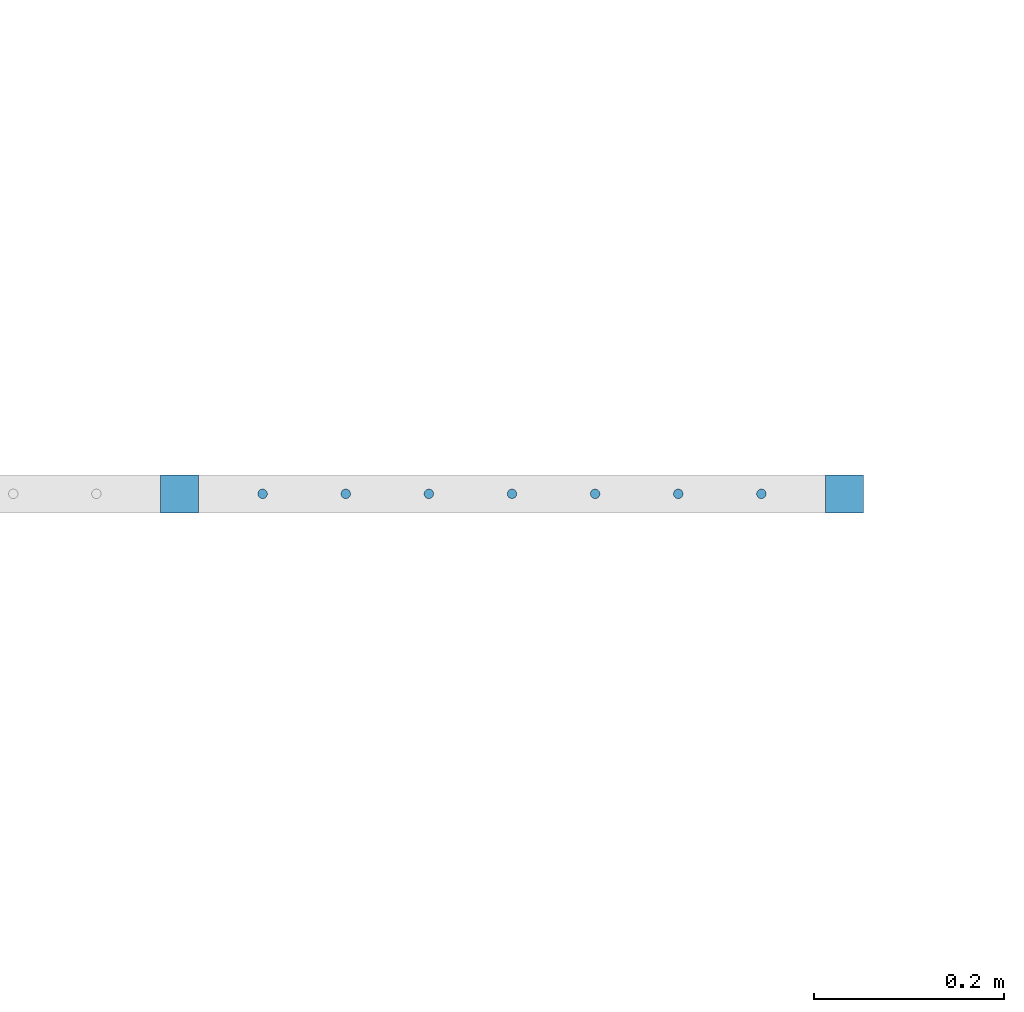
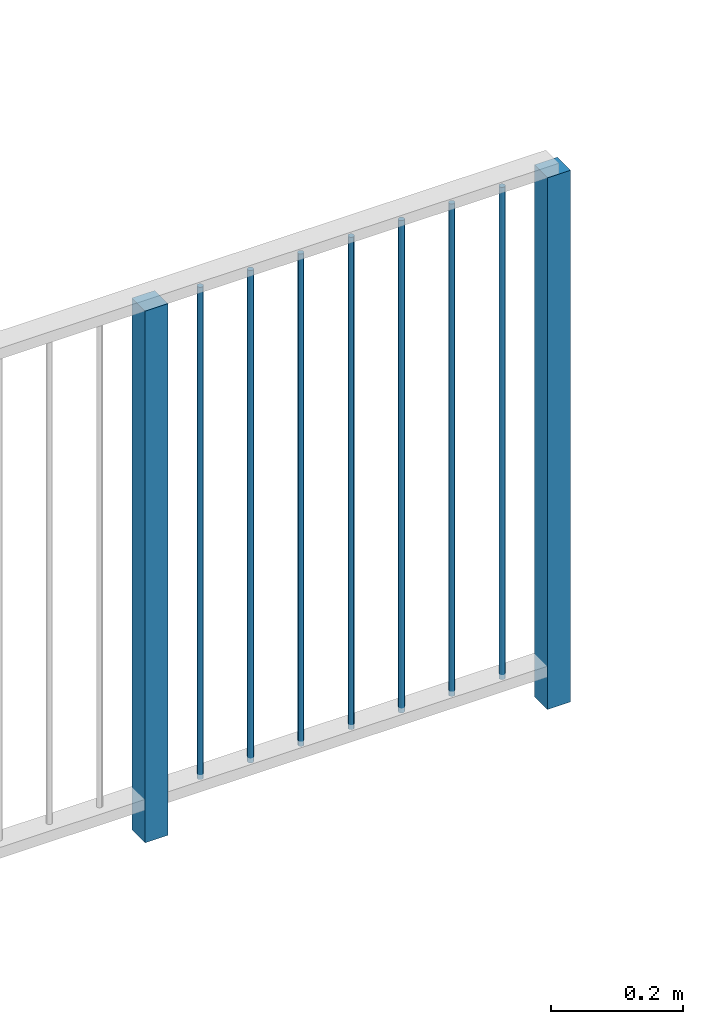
# One storey, part 11 of 135: 9 members, 1 element without a shape of its own.
"""IFC2X3 building model written with IfcOpenShell, lengths in millimetres."""

import ifcopenshell
import ifcopenshell.guid

model = None  # the IFC model being written
_history = None  # IfcOwnerHistory: only IFC2X3 demands one
_inside = {}  # id of a spatial element -> (the spatial element, [elements in it])
_under = {}  # id of a project, library or spatial element -> (it, [spatial elements below it])
_declared = {}  # id of a project -> (the project, [libraries it declares])
_typed = {}  # id of a type object -> (the type object, [elements of that type])
_made_of = {}  # id of a material, layer set ... -> (it, [elements and type objects made of it])


def new_model(schema):
    """Start an empty IFC model of exactly this schema.

    Asked for "IFC4X3", IfcOpenShell would pick the latest addendum, in which some entities
    have other attributes; the version numbers below select the first issue.
    IFC2X3 requires an IfcOwnerHistory on every rooted entity: one is made here for all.
    """
    global model, _history
    if schema == "IFC4X3":
        model = ifcopenshell.file(schema_version=(4, 3, 0, 0))
    else:
        model = ifcopenshell.file(schema=schema)
    _inside.clear()
    _under.clear()
    _declared.clear()
    _typed.clear()
    _made_of.clear()
    _history = None
    if model.schema == "IFC2X3":
        org = make("IfcOrganization", Name="unknown")
        user = make(
            "IfcPersonAndOrganization",
            ThePerson=make("IfcPerson", FamilyName="unknown"),
            TheOrganization=org,
        )
        app = make(
            "IfcApplication",
            ApplicationDeveloper=org,
            Version="unknown",
            ApplicationFullName="unknown",
            ApplicationIdentifier="unknown",
        )
        _history = make(
            "IfcOwnerHistory",
            OwningUser=user,
            OwningApplication=app,
            ChangeAction="ADDED",
            CreationDate=0,
        )
    return model


def make(cls, **values):
    """One entity of the class cls with the attributes given. An attribute that is None is left unset."""
    return model.create_entity(
        cls, **{name: value for name, value in values.items() if value is not None}
    )


def entity(cls, *values):
    """Any entity or typed value of the class cls, its attributes in the order of the schema. None: left unset."""
    e = model.create_entity(cls)
    for i, value in enumerate(values):
        if value is not None:
            e[i] = value
    return e


def rooted(cls, **values):
    """An entity with a GlobalId (a new one), such as an element, a storey or a relation."""
    return make(cls, GlobalId=ifcopenshell.guid.new(), OwnerHistory=_history, **values)


def si_unit(unit_type, name, prefix=None):
    """IfcSIUnit, for example si_unit("LENGTHUNIT", "METRE", prefix="MILLI")."""
    return make("IfcSIUnit", UnitType=unit_type, Prefix=prefix, Name=name)


def converted_unit(unit_type, name, factor, base, dimensions=None, offset=None):
    """IfcConversionBasedUnit, such as the inch: factor (a typed value) times the base unit."""
    return make(
        "IfcConversionBasedUnit"
        if offset is None
        else "IfcConversionBasedUnitWithOffset",
        ConversionOffset=offset,
        Dimensions=None
        if dimensions is None
        else entity("IfcDimensionalExponents", *dimensions),
        UnitType=unit_type,
        Name=name,
        ConversionFactor=make(
            "IfcMeasureWithUnit", ValueComponent=factor, UnitComponent=base
        ),
    )


def derived_unit(unit_type, elements):
    """IfcDerivedUnit: a product of units, each with its exponent."""
    return make(
        "IfcDerivedUnit",
        Elements=[
            make("IfcDerivedUnitElement", Unit=unit, Exponent=power)
            for unit, power in elements
        ],
        UnitType=unit_type,
    )


def money_unit(currency):
    """IfcMonetaryUnit."""
    return make("IfcMonetaryUnit", Currency=currency)


def assignment(units):
    """IfcUnitAssignment: the units of a project."""
    return None if units is None else make("IfcUnitAssignment", Units=units)


def point(xyz):
    """IfcCartesianPoint."""
    return None if xyz is None else make("IfcCartesianPoint", Coordinates=xyz)


def direction(xyz):
    """IfcDirection."""
    return None if xyz is None else make("IfcDirection", DirectionRatios=xyz)


def frame(location, z_axis=None, x_axis=None):
    """IfcAxis2Placement3D, a coordinate frame: its origin and axes. An axis left out is left unset."""
    return make(
        "IfcAxis2Placement3D",
        Location=point(location),
        Axis=direction(z_axis),
        RefDirection=direction(x_axis),
    )


def origin_with_axes():
    """The frame at (0, 0, 0) with the z axis (0, 0, 1) and the x axis (1, 0, 0) written out."""
    return frame((0.0, 0.0, 0.0), z_axis=(0.0, 0.0, 1.0), x_axis=(1.0, 0.0, 0.0))


def place(relative_to, where):
    """IfcLocalPlacement: puts the frame where relative to a parent placement (None: the world)."""
    return make(
        "IfcLocalPlacement", PlacementRelTo=relative_to, RelativePlacement=where
    )


def context(
    kind, dimensions, precision=None, world=None, true_north=None, identifier=None
):
    """IfcGeometricRepresentationContext, for example the 3D "Model" context."""
    return make(
        "IfcGeometricRepresentationContext",
        ContextIdentifier=identifier,
        ContextType=kind,
        CoordinateSpaceDimension=dimensions,
        Precision=precision,
        WorldCoordinateSystem=world,
        TrueNorth=true_north,
    )


def subcontext(parent, identifier, kind, view, scale=None):
    """IfcGeometricRepresentationSubContext, for example "Body" below "Model"."""
    return make(
        "IfcGeometricRepresentationSubContext",
        ContextIdentifier=identifier,
        ContextType=kind,
        ParentContext=parent,
        TargetScale=scale,
        TargetView=view,
    )


def project(units=None, contexts=None):
    """IfcProject with its units and contexts."""
    return rooted(
        "IfcProject",
        Name="project",
        RepresentationContexts=contexts,
        UnitsInContext=assignment(units),
    )


def spatial(cls, under=None, at=None, **own):
    """A site, building, storey or space (cls), placed at a placement, below another one or the project."""
    s = rooted(cls, ObjectPlacement=at, **own)
    if under is not None:
        _under.setdefault(under.id(), (under, []))[1].append(s)
    return s


def faces_of(points, faces, orient=None, outer=None):
    """IfcFace entities. A face is a list of loops; a loop is a list of indices into points, from 0.

    orient and outer hold one flag for each loop. By default every Orientation is true, the
    first loop of a face is its IfcFaceOuterBound and the others are IfcFaceBound.
    """
    made = []
    for i, loops in enumerate(faces):
        bounds = []
        for j, loop in enumerate(loops):
            is_outer = j == 0 if outer is None else outer[i][j]
            bounds.append(
                make(
                    "IfcFaceOuterBound" if is_outer else "IfcFaceBound",
                    Bound=make("IfcPolyLoop", Polygon=[points[k] for k in loop]),
                    Orientation=True if orient is None else orient[i][j],
                )
            )
        made.append(make("IfcFace", Bounds=bounds))
    return made


def faceted_brep(points, faces, orient=None, outer=None, voids=None):
    """IfcFacetedBrep: a solid bounded by flat faces; with voids (closed shells), ...WithVoids."""
    shared = [point(p) for p in points]
    hull = make("IfcClosedShell", CfsFaces=faces_of(shared, faces, orient, outer))
    if voids is None:
        return make("IfcFacetedBrep", Outer=hull)
    return make(
        "IfcFacetedBrepWithVoids",
        Outer=hull,
        Voids=[
            make(cls, CfsFaces=faces_of(shared, fs, o, b)) for cls, fs, o, b in voids
        ],
    )


def shape(context_of_items, identifier, shape_type, items):
    """IfcShapeRepresentation: the items that make up one representation, for example the "Body"."""
    return make(
        "IfcShapeRepresentation",
        ContextOfItems=context_of_items,
        RepresentationIdentifier=identifier,
        RepresentationType=shape_type,
        Items=items,
    )


def source(mapping_origin, context_of_items, identifier, shape_type, items):
    """IfcRepresentationMap: a shape defined once, which mapped items show again and again."""
    return make(
        "IfcRepresentationMap",
        MappingOrigin=mapping_origin,
        MappedRepresentation=shape(context_of_items, identifier, shape_type, items),
    )


def transform(
    local_origin,
    x_axis=None,
    y_axis=None,
    z_axis=None,
    scale=None,
    scale2=None,
    scale3=None,
    uniform=True,
):
    """IfcCartesianTransformationOperator3D, or its non-uniform kind. x_axis, y_axis, z_axis: its Axis1, 2, 3."""
    if uniform:
        return make(
            "IfcCartesianTransformationOperator3D",
            Axis1=direction(x_axis),
            Axis2=direction(y_axis),
            LocalOrigin=point(local_origin),
            Scale=scale,
            Axis3=direction(z_axis),
        )
    return make(
        "IfcCartesianTransformationOperator3DnonUniform",
        Axis1=direction(x_axis),
        Axis2=direction(y_axis),
        LocalOrigin=point(local_origin),
        Scale=scale,
        Axis3=direction(z_axis),
        Scale2=scale2,
        Scale3=scale3,
    )


def mapped(mapping_source, mapping_target):
    """IfcMappedItem: shows the shape of a source again, moved by a transform."""
    return make(
        "IfcMappedItem", MappingSource=mapping_source, MappingTarget=mapping_target
    )


def material(Name=None, Category=None):
    """IfcMaterial."""
    return make("IfcMaterial", Name=Name, Category=Category)


def made_of(thing, what):
    """Note that an element or type object is made of a material, layer set ...; save() writes the relation."""
    if what is not None:
        _made_of.setdefault(what.id(), (what, []))[1].append(thing)
    return thing


def type_object(cls, material=None, **own):
    """A type object (cls), such as IfcWallType, which elements share."""
    return made_of(rooted(cls, **own), material)


def type_shapes(of_type, sources):
    """Give a type object the sources (RepresentationMaps) that its elements show as mapped items."""
    of_type.RepresentationMaps = sources


def element(
    cls,
    number,
    at=None,
    inside=None,
    cuts=None,
    type_object=None,
    material=None,
    context=None,
    identifier="Body",
    shape_type=None,
    held_by="IfcProductDefinitionShape",
    body=None,
    shapes=None,
    **own,
):
    """One element of the class cls, such as IfcWall. Its Tag is "e" and its number.

    at: its placement. inside: the storey or other place that contains it. cuts: it is an
    opening in that element (IfcRelVoidsElement). A single representation is given by context,
    identifier, shape_type and body (its items); several are given by shapes. held_by: the class
    of the entity that holds the representations. save() writes the other relations.
    """
    e = rooted(cls, Tag="e%d" % number, ObjectPlacement=at, **own)
    if body is not None:
        shapes = [shape(context, identifier, shape_type, body)]
    if shapes is not None:
        e.Representation = make(held_by, Representations=shapes)
    if inside is not None:
        _inside.setdefault(inside.id(), (inside, []))[1].append(e)
    if cuts is not None:
        rooted(
            "IfcRelVoidsElement", RelatingBuildingElement=cuts, RelatedOpeningElement=e
        )
    if type_object is not None:
        _typed.setdefault(type_object.id(), (type_object, []))[1].append(e)
    return made_of(e, material)


def aggregate(whole, parts):
    """IfcRelAggregates: a whole, such as a stair, and the parts it consists of."""
    return rooted("IfcRelAggregates", RelatingObject=whole, RelatedObjects=parts)


def save(model, path):
    """Write the relations noted so far, then the file.

    IfcRelAggregates (storeys below a building ...), IfcRelContainedInSpatialStructure (elements
    in a storey), IfcRelDefinesByType, IfcRelAssociatesMaterial and IfcRelDeclares: one each for
    every whole, place, type object, material and project.
    """
    for whole, parts in _under.values():
        aggregate(whole, parts)
    for where, things in _inside.values():
        rooted(
            "IfcRelContainedInSpatialStructure",
            RelatedElements=things,
            RelatingStructure=where,
        )
    for kind, things in _typed.values():
        rooted("IfcRelDefinesByType", RelatedObjects=things, RelatingType=kind)
    for what, things in _made_of.values():
        rooted("IfcRelAssociatesMaterial", RelatedObjects=things, RelatingMaterial=what)
    for by, libraries in _declared.values():
        rooted("IfcRelDeclares", RelatingContext=by, RelatedDefinitions=libraries)
    model.write(path)


model = new_model("IFC2X3")

# Units and contexts
model_context = context("Model", 3, precision=0.01, world=origin_with_axes(), true_north=direction((0.0, 1.0)))
body_context = subcontext(model_context, "Body", "Model", "MODEL_VIEW")
ifc_project = project(units=[si_unit("LENGTHUNIT", "METRE", prefix="MILLI"), si_unit("AREAUNIT", "SQUARE_METRE"), si_unit("VOLUMEUNIT", "CUBIC_METRE"), converted_unit("PLANEANGLEUNIT", "DEGREE", entity("IfcPlaneAngleMeasure", 0.0174532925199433), si_unit("PLANEANGLEUNIT", "RADIAN"), dimensions=[0, 0, 0, 0, 0, 0, 0]), money_unit("EUR"), converted_unit("TIMEUNIT", "Year", entity("IfcTimeMeasure", 31557600.0), si_unit("TIMEUNIT", "SECOND"), dimensions=[0, 0, 1, 0, 0, 0, 0]), si_unit("MASSUNIT", "GRAM", prefix="KILO"), si_unit("THERMODYNAMICTEMPERATUREUNIT", "DEGREE_CELSIUS"), si_unit("LUMINOUSINTENSITYUNIT", "LUMEN"), si_unit("ENERGYUNIT", "JOULE", prefix="MEGA"), derived_unit("THERMALCONDUCTANCEUNIT", [(si_unit("POWERUNIT", "WATT"), 1), (si_unit("LENGTHUNIT", "METRE"), -1), (si_unit("THERMODYNAMICTEMPERATUREUNIT", "KELVIN"), -1)]), derived_unit("SPECIFICHEATCAPACITYUNIT", [(si_unit("ENERGYUNIT", "JOULE"), 1), (si_unit("MASSUNIT", "GRAM", prefix="KILO"), -1), (si_unit("THERMODYNAMICTEMPERATUREUNIT", "KELVIN"), -1)]), derived_unit("MASSDENSITYUNIT", [(si_unit("MASSUNIT", "GRAM", prefix="KILO"), 1), (si_unit("VOLUMEUNIT", "CUBIC_METRE"), -1)])], contexts=[model_context])

# Site, building, storey
site_placement = place(None, origin_with_axes())
site = spatial("IfcSite", under=ifc_project, at=site_placement, Name="Site", CompositionType="ELEMENT")
building_placement = place(site_placement, origin_with_axes())
building = spatial("IfcBuilding", under=site, at=building_placement, Name="Naam gebouw", CompositionType="ELEMENT")
storey_placement = place(building_placement, origin_with_axes())
storey = spatial("IfcBuildingStorey", under=building, at=storey_placement, Name="Begane grond N", CompositionType="ELEMENT", Elevation=0.0)

# Railing, members
railing_type = type_object("IfcRailingType", Name="Railing Type", PredefinedType="NOTDEFINED")
railing_placement = place(storey_placement, frame((799.9999999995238, 21575.82979156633, 4340.731848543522), z_axis=(0.0, 0.0, 1.0), x_axis=(1.0, 0.0, 0.0)))
railing = element("IfcRailing", 1, at=railing_placement, inside=storey, type_object=railing_type, Name="_Reling-x", PredefinedType="NOTDEFINED")
ifc_material = material(Name="Metaal - Staal C")
member_type_1 = type_object("IfcMemberType", Name="IfcMember", PredefinedType="MEMBER")
shared_shape_1 = source(origin_with_axes(), body_context, "Body", "Brep", [
    faceted_brep([(0.0, -5.0, 0.0), (0.8682408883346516, -4.92403876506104, 0.0), (0.868240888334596, -4.92403876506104, 907.5000000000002), (0.0, -5.0, 907.5000000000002), (-0.868240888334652, -4.92403876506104, 0.0), (-1.710100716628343, -4.698463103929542, 0.0), (-2.500000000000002, -4.330127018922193, 0.0), (-3.213938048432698, -3.830222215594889, 0.0), (-3.830222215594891, -3.213938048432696, 0.0), (-4.330127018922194, -2.5, 0.0), (-4.698463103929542, -1.710100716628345, 0.0), (-4.924038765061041, -0.86824088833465, 0.0), (-5.0, 0.0, 0.0), (-4.92403876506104, 0.8682408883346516, 0.0), (-4.698463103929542, 1.710100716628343, 0.0), (-4.330127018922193, 2.500000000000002, 0.0), (-3.83022221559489, 3.213938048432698, 0.0), (-3.213938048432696, 3.83022221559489, 0.0), (-2.5, 4.330127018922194, 0.0), (-1.710100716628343, 4.698463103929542, 0.0), (-0.8682408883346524, 4.92403876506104, 0.0), (0.0, 5.0, 0.0), (0.8682408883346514, 4.92403876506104, 0.0), (1.710100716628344, 4.698463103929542, 0.0), (2.5, 4.330127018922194, 0.0), (3.213938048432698, 3.83022221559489, 0.0), (3.83022221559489, 3.213938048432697, 0.0), (4.330127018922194, 2.499999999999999, 0.0), (4.698463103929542, 1.710100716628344, 0.0), (4.92403876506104, 0.8682408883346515, 0.0), (5.0, 0.0, 0.0), (4.92403876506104, -0.8682408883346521, 0.0), (4.698463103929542, -1.710100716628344, 0.0), (4.330127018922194, -2.5, 0.0), (3.83022221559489, -3.213938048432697, 0.0), (3.213938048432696, -3.83022221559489, 0.0), (2.5, -4.330127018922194, 0.0), (1.710100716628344, -4.698463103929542, 0.0), (1.710100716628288, -4.698463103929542, 907.5000000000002), (2.499999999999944, -4.330127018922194, 907.5000000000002), (3.213938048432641, -3.83022221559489, 907.5000000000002), (3.830222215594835, -3.213938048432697, 907.5000000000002), (4.330127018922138, -2.5, 907.5000000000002), (4.698463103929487, -1.710100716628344, 907.5000000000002), (4.924038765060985, -0.8682408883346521, 907.5000000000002), (4.999999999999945, 0.0, 907.5000000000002), (4.924038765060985, 0.8682408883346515, 907.5000000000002), (4.698463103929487, 1.710100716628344, 907.5000000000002), (4.330127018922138, 2.499999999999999, 907.5000000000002), (3.830222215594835, 3.213938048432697, 907.5000000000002), (3.213938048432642, 3.83022221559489, 907.5000000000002), (2.499999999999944, 4.330127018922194, 907.5000000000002), (1.710100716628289, 4.698463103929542, 907.5000000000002), (0.8682408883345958, 4.92403876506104, 907.5000000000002), (0.0, 5.0, 907.5000000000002), (-0.868240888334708, 4.92403876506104, 907.5000000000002), (-1.710100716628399, 4.698463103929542, 907.5000000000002), (-2.500000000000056, 4.330127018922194, 907.5000000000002), (-3.213938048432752, 3.83022221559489, 907.5000000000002), (-3.830222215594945, 3.213938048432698, 907.5000000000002), (-4.330127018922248, 2.500000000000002, 907.5000000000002), (-4.698463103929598, 1.710100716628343, 907.5000000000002), (-4.924038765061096, 0.8682408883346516, 907.5000000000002), (-5.000000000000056, 0.0, 907.5000000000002), (-4.924038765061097, -0.86824088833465, 907.5000000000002), (-4.698463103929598, -1.710100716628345, 907.5000000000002), (-4.330127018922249, -2.5, 907.5000000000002), (-3.830222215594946, -3.213938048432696, 907.5000000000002), (-3.213938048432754, -3.830222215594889, 907.5000000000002), (-2.500000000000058, -4.330127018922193, 907.5000000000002), (-1.710100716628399, -4.698463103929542, 907.5000000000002), (-0.8682408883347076, -4.92403876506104, 907.5000000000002)], [[[0, 1, 2, 3]], [[0, 4, 5, 6, 7, 8, 9, 10, 11, 12, 13, 14, 15, 16, 17, 18, 19, 20, 21, 22, 23, 24, 25, 26, 27, 28, 29, 30, 31, 32, 33, 34, 35, 36, 37, 1]], [[1, 37, 38, 2]], [[3, 2, 38, 39, 40, 41, 42, 43, 44, 45, 46, 47, 48, 49, 50, 51, 52, 53, 54, 55, 56, 57, 58, 59, 60, 61, 62, 63, 64, 65, 66, 67, 68, 69, 70, 71]], [[4, 0, 3, 71]], [[5, 4, 71, 70]], [[6, 5, 70, 69]], [[7, 6, 69, 68]], [[8, 7, 68, 67]], [[9, 8, 67, 66]], [[10, 9, 66, 65]], [[11, 10, 65, 64]], [[12, 11, 64, 63]], [[13, 12, 63, 62]], [[14, 13, 62, 61]], [[15, 14, 61, 60]], [[16, 15, 60, 59]], [[17, 16, 59, 58]], [[18, 17, 58, 57]], [[19, 18, 57, 56]], [[20, 19, 56, 55]], [[21, 20, 55, 54]], [[22, 21, 54, 53]], [[23, 22, 53, 52]], [[24, 23, 52, 51]], [[25, 24, 51, 50]], [[26, 25, 50, 49]], [[27, 26, 49, 48]], [[28, 27, 48, 47]], [[29, 28, 47, 46]], [[30, 29, 46, 45]], [[31, 30, 45, 44]], [[32, 31, 44, 43]], [[33, 32, 43, 42]], [[34, 33, 42, 41]], [[35, 34, 41, 40]], [[36, 35, 40, 39]], [[37, 36, 39, 38]]]),
])
type_shapes(member_type_1, [shared_shape_1])
member_1_placement = place(railing_placement, frame((406.0416666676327, -99.99999999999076, 3391.96815145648), z_axis=(0.0, 0.0, 1.0), x_axis=(1.0, 0.0, 0.0)))
member_1 = element("IfcMember", 2, at=member_1_placement, type_object=member_type_1, material=ifc_material, Name="_Spijlen-x", ObjectType="MEMBER", context=body_context, shape_type="MappedRepresentation", body=[
    mapped(shared_shape_1, transform((0.0, 0.0, 0.0), x_axis=(0.0, -1.0, 0.0), y_axis=(1.0, 0.0, 0.0), z_axis=(0.0, 0.0, 1.0))),
])
member_2_placement = place(railing_placement, frame((493.7500000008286, -99.99999999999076, 3391.96815145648), z_axis=(0.0, 0.0, 1.0), x_axis=(1.0, 0.0, 0.0)))
member_2 = element("IfcMember", 3, at=member_2_placement, type_object=member_type_1, material=ifc_material, Name="_Spijlen-x", ObjectType="MEMBER", context=body_context, shape_type="MappedRepresentation", body=[
    mapped(shared_shape_1, transform((0.0, 0.0, 0.0), x_axis=(0.0, -1.0, 0.0), y_axis=(1.0, 0.0, 0.0), z_axis=(0.0, 0.0, 1.0))),
])
member_3_placement = place(railing_placement, frame((581.4583333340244, -99.99999999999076, 3391.96815145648), z_axis=(0.0, 0.0, 1.0), x_axis=(1.0, 0.0, 0.0)))
member_3 = element("IfcMember", 4, at=member_3_placement, type_object=member_type_1, material=ifc_material, Name="_Spijlen-x", ObjectType="MEMBER", context=body_context, shape_type="MappedRepresentation", body=[
    mapped(shared_shape_1, transform((0.0, 0.0, 0.0), x_axis=(0.0, -1.0, 0.0), y_axis=(1.0, 0.0, 0.0), z_axis=(0.0, 0.0, 1.0))),
])
member_4_placement = place(railing_placement, frame((669.1666666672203, -99.99999999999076, 3391.96815145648), z_axis=(0.0, 0.0, 1.0), x_axis=(1.0, 0.0, 0.0)))
member_4 = element("IfcMember", 5, at=member_4_placement, type_object=member_type_1, material=ifc_material, Name="_Spijlen-x", ObjectType="MEMBER", context=body_context, shape_type="MappedRepresentation", body=[
    mapped(shared_shape_1, transform((0.0, 0.0, 0.0), x_axis=(0.0, -1.0, 0.0), y_axis=(1.0, 0.0, 0.0), z_axis=(0.0, 0.0, 1.0))),
])
member_5_placement = place(railing_placement, frame((756.8750000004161, -99.99999999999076, 3391.96815145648), z_axis=(0.0, 0.0, 1.0), x_axis=(1.0, 0.0, 0.0)))
member_5 = element("IfcMember", 6, at=member_5_placement, type_object=member_type_1, material=ifc_material, Name="_Spijlen-x", ObjectType="MEMBER", context=body_context, shape_type="MappedRepresentation", body=[
    mapped(shared_shape_1, transform((0.0, 0.0, 0.0), x_axis=(0.0, -1.0, 0.0), y_axis=(1.0, 0.0, 0.0), z_axis=(0.0, 0.0, 1.0))),
])
member_6_placement = place(railing_placement, frame((932.2916666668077, -99.99999999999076, 3391.96815145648), z_axis=(0.0, 0.0, 1.0), x_axis=(1.0, 0.0, 0.0)))
member_6 = element("IfcMember", 7, at=member_6_placement, type_object=member_type_1, material=ifc_material, Name="_Spijlen-x", ObjectType="MEMBER", context=body_context, shape_type="MappedRepresentation", body=[
    mapped(shared_shape_1, transform((0.0, 0.0, 0.0), x_axis=(0.0, -1.0, 0.0), y_axis=(1.0, 0.0, 0.0), z_axis=(0.0, 0.0, 1.0))),
])
member_7_placement = place(railing_placement, frame((844.5833333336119, -99.99999999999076, 3391.96815145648), z_axis=(0.0, 0.0, 1.0), x_axis=(1.0, 0.0, 0.0)))
member_7 = element("IfcMember", 8, at=member_7_placement, type_object=member_type_1, material=ifc_material, Name="_Spijlen-x", ObjectType="MEMBER", context=body_context, shape_type="MappedRepresentation", body=[
    mapped(shared_shape_1, transform((0.0, 0.0, 0.0), x_axis=(0.0, -1.0, 0.0), y_axis=(1.0, 0.0, 0.0), z_axis=(0.0, 0.0, 1.0))),
])
member_type_2 = type_object("IfcMemberType", Name="IfcMember", PredefinedType="POST")
shared_shape_2 = source(origin_with_axes(), body_context, "Body", "Brep", [
    faceted_brep([(20.0, 20.0, 0.0), (-20.0, 20.0, 0.0), (-20.00000000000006, 20.0, 980.0000000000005), (19.99999999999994, 20.0, 980.0000000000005), (20.0, -20.0, 0.0), (-20.0, -20.0, 0.0), (-20.00000000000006, -20.0, 980.0000000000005), (19.99999999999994, -20.0, 980.0000000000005)], [[[0, 1, 2, 3]], [[0, 4, 5, 1]], [[1, 5, 6, 2]], [[3, 2, 6, 7]], [[4, 0, 3, 7]], [[5, 4, 7, 6]]]),
])
type_shapes(member_type_2, [shared_shape_2])
member_8_placement = place(railing_placement, frame((1020.000000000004, -99.99999999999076, 3321.96815145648), z_axis=(0.0, 0.0, 1.0), x_axis=(1.0, 0.0, 0.0)))
member_8 = element("IfcMember", 9, at=member_8_placement, type_object=member_type_2, material=ifc_material, Name="_Hoofdbaluster-x", ObjectType="POST", context=body_context, shape_type="MappedRepresentation", body=[
    mapped(shared_shape_2, transform((0.0, 0.0, 0.0), x_axis=(0.0, -1.0, 0.0), y_axis=(1.0, 0.0, 0.0), z_axis=(0.0, 0.0, 1.0))),
])
member_9_placement = place(railing_placement, frame((318.3333333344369, -99.99999999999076, 3321.96815145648), z_axis=(0.0, 0.0, 1.0), x_axis=(1.0, 0.0, 0.0)))
member_9 = element("IfcMember", 10, at=member_9_placement, type_object=member_type_2, material=ifc_material, Name="_Baluster-x", ObjectType="POST", context=body_context, shape_type="MappedRepresentation", body=[
    mapped(shared_shape_2, transform((0.0, 0.0, 0.0), x_axis=(0.0, -1.0, 0.0), y_axis=(1.0, 0.0, 0.0), z_axis=(0.0, 0.0, 1.0))),
])
aggregate(railing, [member_8, member_1, member_2, member_9, member_3, member_4, member_5, member_6, member_7])

save(model, "model.ifc")
